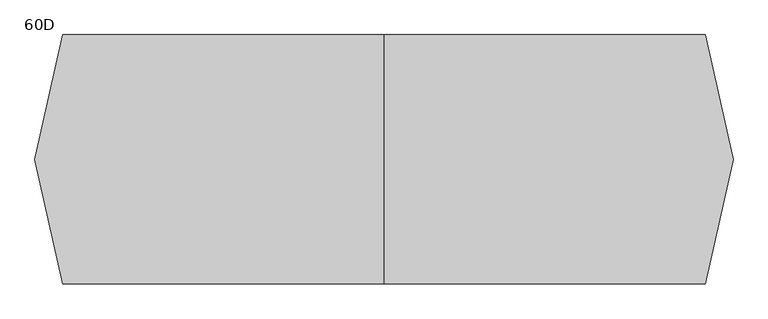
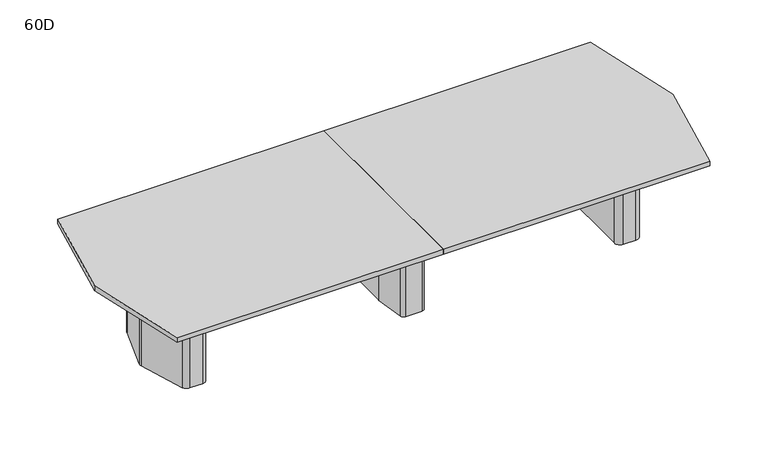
"""IFC4 building model written with IfcOpenShell, lengths in millimetres: furniture geometry, Coalesse_AM_Table_Conference_ETable2_Faceted_14ft_ThreeBase : 60D."""

from ifc_helpers import new_model, si_unit, point, frame, frame_2d, origin, origin_with_axes, place, context, project, spatial, polyline, circle_curve, trimmed, segment, composite_curve, outline, extrude, source, transform, mapped, element, save
from ifc_brep_helpers import plane_surface, cylinder_surface, revolved_surface, advanced_brep


def furniture_60d_98e69a0a(model_context):
    return source(origin(), model_context, "Body", "SolidModel", [
        advanced_brep(
        [(61.0357815, 381.0, 698.5), (-61.0357815, 381.0, 698.5), (-86.1885994, 359.1349332, 698.5), (-117.2278179, 138.2753661, 698.5), (-117.475, 134.740433, 698.5), (-117.475, -134.7404196, 698.5), (-117.2278463, -138.2751502, 698.5), (-86.1904395, -359.1347306, 698.5), (-61.0375932, -381.0, 698.5), (61.0375932, -381.0, 698.5), (86.1904395, -359.1347306, 698.5), (117.2278463, -138.2751502, 698.5), (117.475, -134.7404196, 698.5), (117.475, 134.740433, 698.5), (117.2278179, 138.2753661, 698.5), (86.1885994, 359.1349332, 698.5), (25.4, 314.325, 698.5), (50.8, 288.925, 698.5), (50.8, -288.925, 698.5), (25.4, -314.325, 698.5), (-25.4, -314.325, 698.5), (-50.8, -288.925, 698.5), (-50.8, 288.925, 698.5), (-25.4, 314.325, 698.5), (61.0357815, 381.0, 3.175), (86.1885994, 359.1349332, 3.175), (117.2278179, 138.2753661, 3.175), (117.475, 134.740433, 3.175), (117.475, -134.7404196, 3.175), (117.2278463, -138.2751502, 3.175), (86.1904395, -359.1347306, 3.175), (61.0375932, -381.0, 3.175), (-61.0375932, -381.0, 3.175), (-86.1904395, -359.1347306, 3.175), (-117.2278463, -138.2751502, 3.175), (-117.475, -134.7404196, 3.175), (-117.475, 134.740433, 3.175), (-117.2278179, 138.2753661, 3.175), (-86.1885994, 359.1349332, 3.175), (-61.0357815, 381.0, 3.175), (25.4, 327.025, 3.175), (-25.4, 327.025, 3.175), (-63.5, 288.925, 3.175), (-63.5, -288.925, 3.175), (-25.4, -327.025, 3.175), (25.4, -327.025, 3.175), (63.5, -288.925, 3.175), (63.5, 288.925, 3.175), (25.4, 314.325, 3.175), (50.8, 288.925, 3.175), (50.8, -288.925, 3.175), (25.4, -314.325, 3.175), (-25.4, -314.325, 3.175), (-50.8, -288.925, 3.175), (-50.8, 288.925, 3.175), (-25.4, 314.325, 3.175), (25.4, 327.025, 0.0), (63.5, 288.925, 0.0), (63.5, -288.925, 0.0), (25.4, -327.025, 0.0), (-25.4, -327.025, 0.0), (-63.5, -288.925, 0.0), (-63.5, 288.925, 0.0), (-25.4, 327.025, 0.0)],
        [
            (0, 1),
            (1, 2, circle_curve(frame((-61.0357815, 355.6, 698.5), z_axis=(0.0, 0.0, 1.0), x_axis=(1.0, 0.0, 0.0)), 25.4)),
            (2, 3),
            (3, 4, circle_curve(frame((-92.075, 134.740433, 698.5), z_axis=(0.0, 0.0, 1.0), x_axis=(1.0, 0.0, 0.0)), 25.4)),
            (4, 5),
            (5, 6, circle_curve(frame((-92.075, -134.7404196, 698.5), z_axis=(0.0, 0.0, 1.0), x_axis=(1.0, 0.0, 0.0)), 25.4)),
            (6, 7),
            (7, 8, circle_curve(frame((-61.0375932, -355.6, 698.5), z_axis=(0.0, 0.0, 1.0), x_axis=(1.0, 0.0, 0.0)), 25.4)),
            (8, 9),
            (9, 10, circle_curve(frame((61.0375932, -355.6, 698.5), z_axis=(0.0, 0.0, 1.0), x_axis=(1.0, 0.0, 0.0)), 25.4)),
            (10, 11),
            (11, 12, circle_curve(frame((92.075, -134.7404196, 698.5), z_axis=(0.0, 0.0, 1.0), x_axis=(1.0, 0.0, 0.0)), 25.4)),
            (12, 13),
            (13, 14, circle_curve(frame((92.075, 134.740433, 698.5), z_axis=(0.0, 0.0, 1.0), x_axis=(1.0, 0.0, 0.0)), 25.4)),
            (14, 15),
            (15, 0, circle_curve(frame((61.0357815, 355.6, 698.5), z_axis=(0.0, 0.0, 1.0), x_axis=(1.0, 0.0, 0.0)), 25.4)),
            (16, 17, circle_curve(frame((25.4, 288.925, 698.5), z_axis=(0.0, 0.0, -1.0), x_axis=(1.0, 0.0, 0.0)), 25.4)),
            (17, 18),
            (18, 19, circle_curve(frame((25.4, -288.925, 698.5), z_axis=(0.0, 0.0, -1.0), x_axis=(1.0, 0.0, 0.0)), 25.4)),
            (19, 20),
            (20, 21, circle_curve(frame((-25.4, -288.925, 698.5), z_axis=(0.0, 0.0, -1.0), x_axis=(1.0, 0.0, 0.0)), 25.4)),
            (21, 22),
            (22, 23, circle_curve(frame((-25.4, 288.925, 698.5), z_axis=(0.0, 0.0, -1.0), x_axis=(1.0, 0.0, 0.0)), 25.4)),
            (23, 16),
            (24, 25, circle_curve(frame((61.0357815, 355.6, 3.175), z_axis=(0.0, 0.0, -1.0), x_axis=(1.0, 0.0, 0.0)), 25.4)),
            (25, 26),
            (26, 27, circle_curve(frame((92.075, 134.740433, 3.175), z_axis=(0.0, 0.0, -1.0), x_axis=(1.0, 0.0, 0.0)), 25.4)),
            (27, 28),
            (28, 29, circle_curve(frame((92.075, -134.7404196, 3.175), z_axis=(0.0, 0.0, -1.0), x_axis=(1.0, 0.0, 0.0)), 25.4)),
            (29, 30),
            (30, 31, circle_curve(frame((61.0375932, -355.6, 3.175), z_axis=(0.0, 0.0, -1.0), x_axis=(1.0, 0.0, 0.0)), 25.4)),
            (31, 32),
            (32, 33, circle_curve(frame((-61.0375932, -355.6, 3.175), z_axis=(0.0, 0.0, -1.0), x_axis=(1.0, 0.0, 0.0)), 25.4)),
            (33, 34),
            (34, 35, circle_curve(frame((-92.075, -134.7404196, 3.175), z_axis=(0.0, 0.0, -1.0), x_axis=(1.0, 0.0, 0.0)), 25.4)),
            (35, 36),
            (36, 37, circle_curve(frame((-92.075, 134.740433, 3.175), z_axis=(0.0, 0.0, -1.0), x_axis=(1.0, 0.0, 0.0)), 25.4)),
            (37, 38),
            (38, 39, circle_curve(frame((-61.0357815, 355.6, 3.175), z_axis=(0.0, 0.0, -1.0), x_axis=(1.0, 0.0, 0.0)), 25.4)),
            (39, 24),
            (40, 41),
            (41, 42, circle_curve(frame((-25.4, 288.925, 3.175), z_axis=(0.0, 0.0, 1.0), x_axis=(1.0, 0.0, 0.0)), 38.1)),
            (42, 43),
            (43, 44, circle_curve(frame((-25.4, -288.925, 3.175), z_axis=(0.0, 0.0, 1.0), x_axis=(1.0, 0.0, 0.0)), 38.1)),
            (44, 45),
            (45, 46, circle_curve(frame((25.4, -288.925, 3.175), z_axis=(0.0, 0.0, 1.0), x_axis=(1.0, 0.0, 0.0)), 38.1)),
            (46, 47),
            (47, 40, circle_curve(frame((25.4, 288.925, 3.175), z_axis=(0.0, 0.0, 1.0), x_axis=(1.0, 0.0, 0.0)), 38.1)),
            (0, 24),
            (39, 1),
            (38, 2),
            (37, 3),
            (36, 4),
            (35, 5),
            (34, 6),
            (33, 7),
            (32, 8),
            (31, 9),
            (30, 10),
            (29, 11),
            (28, 12),
            (27, 13),
            (26, 14),
            (25, 15),
            (16, 48),
            (48, 49, circle_curve(frame((25.4, 288.925, 3.175), z_axis=(0.0, 0.0, -1.0), x_axis=(1.0, 0.0, 0.0)), 25.4)),
            (49, 17),
            (49, 50),
            (50, 18),
            (50, 51, circle_curve(frame((25.4, -288.925, 3.175), z_axis=(0.0, 0.0, -1.0), x_axis=(1.0, 0.0, 0.0)), 25.4)),
            (51, 19),
            (51, 52),
            (52, 20),
            (52, 53, circle_curve(frame((-25.4, -288.925, 3.175), z_axis=(0.0, 0.0, -1.0), x_axis=(1.0, 0.0, 0.0)), 25.4)),
            (53, 21),
            (53, 54),
            (54, 22),
            (54, 55, circle_curve(frame((-25.4, 288.925, 3.175), z_axis=(0.0, 0.0, -1.0), x_axis=(1.0, 0.0, 0.0)), 25.4)),
            (55, 23),
            (55, 48),
            (56, 57, circle_curve(frame((25.4, 288.925, 0.0), z_axis=(0.0, 0.0, -1.0), x_axis=(1.0, 0.0, 0.0)), 38.1)),
            (57, 58),
            (58, 59, circle_curve(frame((25.4, -288.925, 0.0), z_axis=(0.0, 0.0, -1.0), x_axis=(1.0, 0.0, 0.0)), 38.1)),
            (59, 60),
            (60, 61, circle_curve(frame((-25.4, -288.925, 0.0), z_axis=(0.0, 0.0, -1.0), x_axis=(1.0, 0.0, 0.0)), 38.1)),
            (61, 62),
            (62, 63, circle_curve(frame((-25.4, 288.925, 0.0), z_axis=(0.0, 0.0, -1.0), x_axis=(1.0, 0.0, 0.0)), 38.1)),
            (63, 56),
            (63, 41),
            (40, 56),
            (62, 42),
            (61, 43),
            (60, 44),
            (59, 45),
            (58, 46),
            (57, 47),
        ],
        [
            plane_surface(frame((-1524.0, 381.0, 698.5), z_axis=(0.0, 0.0, 1.0), x_axis=(-1.0, 0.0, 0.0))),
            plane_surface(frame((-1524.0, 381.0, 3.175), z_axis=(0.0, 0.0, -1.0), x_axis=(1.0, 0.0, 0.0))),
            plane_surface(frame((61.0357815, 381.0, 698.5), z_axis=(0.0, 1.0, 0.0), x_axis=(0.0, 0.0, -1.0))),
            cylinder_surface(frame((-61.0357815, 355.6, 3.175), z_axis=(0.0, 0.0, 1.0), x_axis=(1.0, 0.0, 0.0)), 25.4),
            plane_surface(frame((-86.1885994, 359.1349332, 698.5), z_axis=(-0.9902684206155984, 0.13917059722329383, 0.0), x_axis=(0.0, 0.0, -1.0))),
            cylinder_surface(frame((-92.075, 134.740433, 3.175), z_axis=(0.0, 0.0, 1.0), x_axis=(1.0, 0.0, 0.0)), 25.4),
            plane_surface(frame((-117.475, 134.740433, 698.5), z_axis=(-1.0, 0.0, 0.0), x_axis=(0.0, 0.0, -1.0))),
            cylinder_surface(frame((-92.075, -134.7404196, 3.175), z_axis=(0.0, 0.0, 1.0), x_axis=(1.0, 0.0, 0.0)), 25.4),
            plane_surface(frame((-117.2278463, -138.2751502, 698.5), z_axis=(-0.9902695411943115, -0.1391626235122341, 0.0), x_axis=(0.0, 0.0, -1.0))),
            cylinder_surface(frame((-61.0375932, -355.6, 3.175), z_axis=(0.0, 0.0, 1.0), x_axis=(1.0, 0.0, 0.0)), 25.4),
            plane_surface(frame((-61.0375932, -381.0, 698.5), z_axis=(0.0, -1.0, 0.0), x_axis=(0.0, 0.0, -1.0))),
            cylinder_surface(frame((61.0375932, -355.6, 3.175), z_axis=(0.0, 0.0, 1.0), x_axis=(1.0, 0.0, 0.0)), 25.4),
            plane_surface(frame((86.1904395, -359.1347306, 698.5), z_axis=(0.9902695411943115, -0.1391626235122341, 0.0), x_axis=(0.0, 0.0, -1.0))),
            cylinder_surface(frame((92.075, -134.7404196, 3.175), z_axis=(0.0, 0.0, 1.0), x_axis=(1.0, 0.0, 0.0)), 25.4),
            plane_surface(frame((117.475, -134.7404196, 698.5), z_axis=(1.0, 0.0, 0.0), x_axis=(0.0, 0.0, -1.0))),
            cylinder_surface(frame((92.075, 134.740433, 3.175), z_axis=(0.0, 0.0, 1.0), x_axis=(1.0, 0.0, 0.0)), 25.4),
            plane_surface(frame((117.2278179, 138.2753661, 698.5), z_axis=(0.9902684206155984, 0.13917059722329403, 0.0), x_axis=(0.0, 0.0, -1.0))),
            cylinder_surface(frame((61.0357815, 355.6, 3.175), z_axis=(0.0, 0.0, 1.0), x_axis=(1.0, 0.0, 0.0)), 25.4),
            revolved_surface(polyline([(50.8, 288.925, 3.175), (50.8, 288.925, 698.5)]), (25.4, 288.925, 0.0), (0.0, 0.0, -1.0)),
            plane_surface(frame((50.8, 288.925, 698.5), z_axis=(-1.0, 0.0, 0.0), x_axis=(0.0, 0.0, -1.0))),
            revolved_surface(polyline([(50.8, -288.925, 3.175), (50.8, -288.925, 698.5)]), (25.4, -288.925, 0.0), (0.0, 0.0, -1.0)),
            plane_surface(frame((25.4, -314.325, 698.5), z_axis=(0.0, 1.0, 0.0), x_axis=(0.0, 0.0, -1.0))),
            revolved_surface(polyline([(0.0, -288.925, 3.175), (0.0, -288.925, 698.5)]), (-25.4, -288.925, 0.0), (0.0, 0.0, -1.0)),
            plane_surface(frame((-50.8, -288.925, 698.5), z_axis=(1.0, 0.0, 0.0), x_axis=(0.0, 0.0, -1.0))),
            revolved_surface(polyline([(0.0, 288.925, 3.175), (0.0, 288.925, 698.5)]), (-25.4, 288.925, 0.0), (0.0, 0.0, -1.0)),
            plane_surface(frame((-25.4, 314.325, 698.5), z_axis=(0.0, -1.0, 0.0), x_axis=(0.0, 0.0, -1.0))),
            plane_surface(frame((-50.8, 327.025, 3.175), z_axis=(0.0, 0.0, 1.0), x_axis=(-1.0, 0.0, 0.0))),
            plane_surface(frame((-50.8, 327.025, 0.0), z_axis=(0.0, 0.0, -1.0), x_axis=(1.0, 0.0, 0.0))),
            plane_surface(frame((25.4, 327.025, 3.175), z_axis=(0.0, 1.0, 0.0), x_axis=(0.0, 0.0, -1.0))),
            cylinder_surface(frame((-25.4, 288.925, 0.0), z_axis=(0.0, 0.0, 1.0), x_axis=(1.0, 0.0, 0.0)), 38.1),
            plane_surface(frame((-63.5, 288.925, 3.175), z_axis=(-1.0, 0.0, 0.0), x_axis=(0.0, 0.0, -1.0))),
            cylinder_surface(frame((-25.4, -288.925, 0.0), z_axis=(0.0, 0.0, 1.0), x_axis=(1.0, 0.0, 0.0)), 38.1),
            plane_surface(frame((-25.4, -327.025, 3.175), z_axis=(0.0, -1.0, 0.0), x_axis=(0.0, 0.0, -1.0))),
            cylinder_surface(frame((25.4, -288.925, 0.0), z_axis=(0.0, 0.0, 1.0), x_axis=(1.0, 0.0, 0.0)), 38.1),
            plane_surface(frame((63.5, -288.925, 3.175), z_axis=(1.0, 0.0, 0.0), x_axis=(0.0, 0.0, -1.0))),
            cylinder_surface(frame((25.4, 288.925, 0.0), z_axis=(0.0, 0.0, 1.0), x_axis=(1.0, 0.0, 0.0)), 38.1),
        ],
        [
            (0, [[1, 2, 3, 4, 5, 6, 7, 8, 9, 10, 11, 12, 13, 14, 15, 16], [17, 18, 19, 20, 21, 22, 23, 24]]),
            (1, [[25, 26, 27, 28, 29, 30, 31, 32, 33, 34, 35, 36, 37, 38, 39, 40], [41, 42, 43, 44, 45, 46, 47, 48]]),
            (2, [[-1, 49, -40, 50]]),
            (3, [[-2, -50, -39, 51]]),
            (4, [[-3, -51, -38, 52]]),
            (5, [[-4, -52, -37, 53]]),
            (6, [[-5, -53, -36, 54]]),
            (7, [[-6, -54, -35, 55]]),
            (8, [[-7, -55, -34, 56]]),
            (9, [[-8, -56, -33, 57]]),
            (10, [[-9, -57, -32, 58]]),
            (11, [[-10, -58, -31, 59]]),
            (12, [[-11, -59, -30, 60]]),
            (13, [[-12, -60, -29, 61]]),
            (14, [[-13, -61, -28, 62]]),
            (15, [[-14, -62, -27, 63]]),
            (16, [[-15, -63, -26, 64]]),
            (17, [[-16, -64, -25, -49]]),
            (18, [[-17, 65, 66, 67]]),
            (19, [[-18, -67, 68, 69]]),
            (20, [[-19, -69, 70, 71]]),
            (21, [[-20, -71, 72, 73]]),
            (22, [[-21, -73, 74, 75]]),
            (23, [[-22, -75, 76, 77]]),
            (24, [[-23, -77, 78, 79]]),
            (25, [[-24, -79, 80, -65]]),
            (26, [[-66, -80, -78, -76, -74, -72, -70, -68]]),
            (27, [[81, 82, 83, 84, 85, 86, 87, 88]]),
            (28, [[-88, 89, -41, 90]]),
            (29, [[-87, 91, -42, -89]]),
            (30, [[-86, 92, -43, -91]]),
            (31, [[-85, 93, -44, -92]]),
            (32, [[-84, 94, -45, -93]]),
            (33, [[-83, 95, -46, -94]]),
            (34, [[-82, 96, -47, -95]]),
            (35, [[-81, -90, -48, -96]]),
        ],
    ),
        extrude(outline(composite_curve([segment(polyline([(1731.9625, 101.7236478), (1731.9625, -97.2761514)]), True, "CONTINUOUS"), segment(trimmed(circle_curve(frame_2d((1693.8625, -97.2761514)), 38.1), [point((1731.9625, -97.2761514))], [point((1730.1991129, -108.7330515))], False, "CARTESIAN"), True, "CONTINUOUS"), segment(polyline([(1730.1991129, -108.7330515), (1671.7745591, -294.0319001)]), True, "CONTINUOUS"), segment(trimmed(circle_curve(frame_2d((1635.4379462, -282.575)), 38.1), [point((1671.7745591, -294.0319001))], [point((1635.4379462, -320.675))], False, "CARTESIAN"), True, "CONTINUOUS"), segment(polyline([(1635.4379462, -320.675), (1568.45, -320.675)]), True, "CONTINUOUS"), segment(trimmed(circle_curve(frame_2d((1568.45, -282.575)), 38.1), [point((1568.45, -320.675))], [point((1530.35, -282.575))], False, "CARTESIAN"), True, "CONTINUOUS"), segment(polyline([(1530.35, -282.575), (1530.35, 282.575)]), True, "CONTINUOUS"), segment(trimmed(circle_curve(frame_2d((1568.45, 282.575)), 38.1), [point((1530.35, 282.575))], [point((1568.45, 320.675))], False, "CARTESIAN"), True, "CONTINUOUS"), segment(polyline([(1568.45, 320.675), (1639.1873998, 320.675)]), True, "CONTINUOUS"), segment(trimmed(circle_curve(frame_2d((1639.1873998, 282.575)), 38.1), [point((1639.1873998, 320.675))], [point((1675.6572049, 293.6005756))], False, "CARTESIAN"), True, "CONTINUOUS"), segment(polyline([(1675.6572049, 293.6005756), (1730.3323051, 112.7492234)]), True, "CONTINUOUS"), segment(trimmed(circle_curve(frame_2d((1693.8625, 101.7236478)), 38.1), [point((1730.3323051, 112.7492234))], [point((1731.9625, 101.7236478))], False, "CARTESIAN"), True, "CONTINUOUS")], self_intersect=False)), origin_with_axes(), (0.0, 0.0, 1.0), 3.175),
        extrude(outline(composite_curve([segment(polyline([(1552.575, 381.0), (1640.7221663, 381.0)]), True, "CONTINUOUS"), segment(trimmed(circle_curve(frame_2d((1640.7221663, 339.725)), 41.275), [point((1640.7221663, 381.0))], [point((1680.0868303, 352.1366418))], False, "CARTESIAN"), True, "CONTINUOUS"), segment(polyline([(1680.0868303, 352.1366418), (1787.2018053, 12.4116418)]), True, "CONTINUOUS"), segment(trimmed(circle_curve(frame_2d((1747.8371413, 0.0)), 41.275), [point((1787.2018053, 12.4116418))], [point((1787.2018053, -12.4116418))], False, "CARTESIAN"), True, "CONTINUOUS"), segment(polyline([(1787.2018053, -12.4116418), (1680.0868303, -352.1366418)]), True, "CONTINUOUS"), segment(trimmed(circle_curve(frame_2d((1640.7221663, -339.725)), 41.275), [point((1680.0868303, -352.1366418))], [point((1640.7221663, -381.0))], False, "CARTESIAN"), True, "CONTINUOUS"), segment(polyline([(1640.7221663, -381.0), (1546.225, -381.0)]), True, "CONTINUOUS"), segment(trimmed(circle_curve(frame_2d((1546.225, -339.725)), 41.275), [point((1546.225, -381.0))], [point((1504.95, -339.725))], False, "CARTESIAN"), True, "CONTINUOUS"), segment(polyline([(1504.95, -339.725), (1504.95, 333.375)]), True, "CONTINUOUS"), segment(trimmed(circle_curve(frame_2d((1552.575, 333.375)), 47.625), [point((1504.95, 333.375))], [point((1552.575, 381.0))], False, "CARTESIAN"), True, "CONTINUOUS")], self_intersect=False), holes=[composite_curve([segment(trimmed(circle_curve(frame_2d((1568.45, -282.575)), 25.4), [point((1543.05, -282.575))], [point((1568.45, -307.975))], True, "CARTESIAN"), True, "CONTINUOUS"), segment(polyline([(1568.45, -307.975), (1635.4379462, -307.975)]), True, "CONTINUOUS"), segment(trimmed(circle_curve(frame_2d((1635.4379462, -282.575)), 25.4), [point((1635.4379462, -307.975))], [point((1659.6623548, -290.2129334))], True, "CARTESIAN"), True, "CONTINUOUS"), segment(polyline([(1659.6623548, -290.2129334), (1718.0869086, -104.9140848)]), True, "CONTINUOUS"), segment(trimmed(circle_curve(frame_2d((1693.8625, -97.2761514)), 25.4), [point((1718.0869086, -104.9140848))], [point((1719.2625, -97.2761514))], True, "CARTESIAN"), True, "CONTINUOUS"), segment(polyline([(1719.2625, -97.2761514), (1719.2625, 101.7236478)]), True, "CONTINUOUS"), segment(trimmed(circle_curve(frame_2d((1693.8625, 101.7236478)), 25.4), [point((1719.2625, 101.7236478))], [point((1718.1757034, 109.0740316))], True, "CARTESIAN"), True, "CONTINUOUS"), segment(polyline([(1718.1757034, 109.0740316), (1663.5006032, 289.9253837)]), True, "CONTINUOUS"), segment(trimmed(circle_curve(frame_2d((1639.1873998, 282.575)), 25.4), [point((1663.5006032, 289.9253837))], [point((1639.1873998, 307.975))], True, "CARTESIAN"), True, "CONTINUOUS"), segment(polyline([(1639.1873998, 307.975), (1568.45, 307.975)]), True, "CONTINUOUS"), segment(trimmed(circle_curve(frame_2d((1568.45, 282.575)), 25.4), [point((1568.45, 307.975))], [point((1543.05, 282.575))], True, "CARTESIAN"), True, "CONTINUOUS"), segment(polyline([(1543.05, 282.575), (1543.05, -282.575)]), True, "CONTINUOUS")], self_intersect=False)]), frame((0.0, 0.0, 3.175), z_axis=(0.0, 0.0, 1.0), x_axis=(1.0, 0.0, 0.0)), (0.0, 0.0, 1.0), 695.325),
        extrude(outline(composite_curve([segment(trimmed(circle_curve(frame_2d((-1704.975, 101.7236478)), 38.1), [point((-1743.075, 101.7236478))], [point((-1741.4448051, 112.7492234))], False, "CARTESIAN"), True, "CONTINUOUS"), segment(polyline([(-1741.4448051, 112.7492234), (-1686.7697049, 293.6005756)]), True, "CONTINUOUS"), segment(trimmed(circle_curve(frame_2d((-1650.2998998, 282.575)), 38.1), [point((-1686.7697049, 293.6005756))], [point((-1650.2998998, 320.675))], False, "CARTESIAN"), True, "CONTINUOUS"), segment(polyline([(-1650.2998998, 320.675), (-1579.5625, 320.675)]), True, "CONTINUOUS"), segment(trimmed(circle_curve(frame_2d((-1579.5625, 282.575)), 38.1), [point((-1579.5625, 320.675))], [point((-1541.4625, 282.575))], False, "CARTESIAN"), True, "CONTINUOUS"), segment(polyline([(-1541.4625, 282.575), (-1541.4625, -282.575)]), True, "CONTINUOUS"), segment(trimmed(circle_curve(frame_2d((-1579.5625, -282.575)), 38.1), [point((-1541.4625, -282.575))], [point((-1579.5625, -320.675))], False, "CARTESIAN"), True, "CONTINUOUS"), segment(polyline([(-1579.5625, -320.675), (-1646.5504462, -320.675)]), True, "CONTINUOUS"), segment(trimmed(circle_curve(frame_2d((-1646.5504462, -282.575)), 38.1), [point((-1646.5504462, -320.675))], [point((-1682.8870591, -294.0319001))], False, "CARTESIAN"), True, "CONTINUOUS"), segment(polyline([(-1682.8870591, -294.0319001), (-1741.3116129, -108.7330515)]), True, "CONTINUOUS"), segment(trimmed(circle_curve(frame_2d((-1704.975, -97.2761514)), 38.1), [point((-1741.3116129, -108.7330515))], [point((-1743.075, -97.2761514))], False, "CARTESIAN"), True, "CONTINUOUS"), segment(polyline([(-1743.075, -97.2761514), (-1743.075, 101.7236478)]), True, "CONTINUOUS")], self_intersect=False)), origin_with_axes(), (0.0, 0.0, 1.0), 3.175),
        extrude(outline(composite_curve([segment(trimmed(circle_curve(frame_2d((-1563.6875, 333.375)), 47.625), [point((-1563.6875, 381.0))], [point((-1516.0625, 333.375))], False, "CARTESIAN"), True, "CONTINUOUS"), segment(polyline([(-1516.0625, 333.375), (-1516.0625, -339.725)]), True, "CONTINUOUS"), segment(trimmed(circle_curve(frame_2d((-1557.3375, -339.725)), 41.275), [point((-1516.0625, -339.725))], [point((-1557.3375, -381.0))], False, "CARTESIAN"), True, "CONTINUOUS"), segment(polyline([(-1557.3375, -381.0), (-1651.8346663, -381.0)]), True, "CONTINUOUS"), segment(trimmed(circle_curve(frame_2d((-1651.8346663, -339.725)), 41.275), [point((-1651.8346663, -381.0))], [point((-1691.1993303, -352.1366418))], False, "CARTESIAN"), True, "CONTINUOUS"), segment(polyline([(-1691.1993303, -352.1366418), (-1798.3143053, -12.4116418)]), True, "CONTINUOUS"), segment(trimmed(circle_curve(frame_2d((-1758.9496413, 0.0)), 41.275), [point((-1798.3143053, -12.4116418))], [point((-1798.3143053, 12.4116418))], False, "CARTESIAN"), True, "CONTINUOUS"), segment(polyline([(-1798.3143053, 12.4116418), (-1691.1993303, 352.1366418)]), True, "CONTINUOUS"), segment(trimmed(circle_curve(frame_2d((-1651.8346663, 339.725)), 41.275), [point((-1691.1993303, 352.1366418))], [point((-1651.8346663, 381.0))], False, "CARTESIAN"), True, "CONTINUOUS"), segment(polyline([(-1651.8346663, 381.0), (-1563.6875, 381.0)]), True, "CONTINUOUS")], self_intersect=False), holes=[composite_curve([segment(polyline([(-1554.1625, -282.575), (-1554.1625, 282.575)]), True, "CONTINUOUS"), segment(trimmed(circle_curve(frame_2d((-1579.5625, 282.575)), 25.4), [point((-1554.1625, 282.575))], [point((-1579.5625, 307.975))], True, "CARTESIAN"), True, "CONTINUOUS"), segment(polyline([(-1579.5625, 307.975), (-1650.2998998, 307.975)]), True, "CONTINUOUS"), segment(trimmed(circle_curve(frame_2d((-1650.2998998, 282.575)), 25.4), [point((-1650.2998998, 307.975))], [point((-1674.6131032, 289.9253837))], True, "CARTESIAN"), True, "CONTINUOUS"), segment(polyline([(-1674.6131032, 289.9253837), (-1729.2882034, 109.0740316)]), True, "CONTINUOUS"), segment(trimmed(circle_curve(frame_2d((-1704.975, 101.7236478)), 25.4), [point((-1729.2882034, 109.0740316))], [point((-1730.375, 101.7236478))], True, "CARTESIAN"), True, "CONTINUOUS"), segment(polyline([(-1730.375, 101.7236478), (-1730.375, -97.2761514)]), True, "CONTINUOUS"), segment(trimmed(circle_curve(frame_2d((-1704.975, -97.2761514)), 25.4), [point((-1730.375, -97.2761514))], [point((-1729.1994086, -104.9140848))], True, "CARTESIAN"), True, "CONTINUOUS"), segment(polyline([(-1729.1994086, -104.9140848), (-1670.7748548, -290.2129334)]), True, "CONTINUOUS"), segment(trimmed(circle_curve(frame_2d((-1646.5504462, -282.575)), 25.4), [point((-1670.7748548, -290.2129334))], [point((-1646.5504462, -307.975))], True, "CARTESIAN"), True, "CONTINUOUS"), segment(polyline([(-1646.5504462, -307.975), (-1579.5625, -307.975)]), True, "CONTINUOUS"), segment(trimmed(circle_curve(frame_2d((-1579.5625, -282.575)), 25.4), [point((-1579.5625, -307.975))], [point((-1554.1625, -282.575))], True, "CARTESIAN"), True, "CONTINUOUS")], self_intersect=False)]), frame((0.0, 0.0, 3.175), z_axis=(0.0, 0.0, 1.0), x_axis=(1.0, 0.0, 0.0)), (0.0, 0.0, 1.0), 695.325),
        extrude(outline(polyline([(1964.6677242, 762.0), (2133.6, 0.0), (1964.6677242, -762.0), (0.0, -762.0), (0.0, 762.0), (1964.6677242, 762.0)])), frame((0.0, 0.0, 698.5), z_axis=(0.0, 0.0, 1.0), x_axis=(1.0, 0.0, 0.0)), (0.0, 0.0, 1.0), 38.1),
        extrude(outline(polyline([(0.0, 762.0), (0.0, -762.0), (-1964.6677242, -762.0), (-2133.6, 0.0), (-1964.6677242, 762.0), (0.0, 762.0)])), frame((0.0, 0.0, 698.5), z_axis=(0.0, 0.0, 1.0), x_axis=(1.0, 0.0, 0.0)), (0.0, 0.0, 1.0), 38.1),
        extrude(outline(polyline([(96.8375, 698.5), (103.1875, 698.5), (103.1875, 476.25), (-103.1875, 476.25), (-103.1875, 698.5), (-96.8375, 698.5), (-96.8375, 482.6), (96.8375, 482.6), (96.8375, 698.5)])), frame((-1516.0625, 0.0, 0.0), z_axis=(1.0, 0.0, 0.0), x_axis=(0.0, 1.0, 0.0)), (0.0, 0.0, 1.0), 3021.0125),
    ])


if __name__ == "__main__":
    model = new_model("IFC4")
    model_context = context("Model", 3, world=origin())
    ifc_project = project(units=[si_unit("LENGTHUNIT", "METRE", prefix="MILLI")], contexts=[model_context])
    site = spatial("IfcSite", under=ifc_project)
    building = spatial("IfcBuilding", under=site)
    placement = place(None, origin())
    furniture_60d_shape = furniture_60d_98e69a0a(model_context)
    element("IfcFurniture", 1, ObjectType="Coalesse_AM_Table_Conference_ETable2_Faceted_14ft_ThreeBase : 60D", at=placement, inside=building, context=model_context, shape_type="MappedRepresentation", body=[
        mapped(furniture_60d_shape, transform((0.0, 0.0, 0.0), x_axis=(1.0, 0.0, 0.0), y_axis=(0.0, 1.0, 0.0), z_axis=(0.0, 0.0, 1.0))),
    ])
    save(model, "model.ifc")
